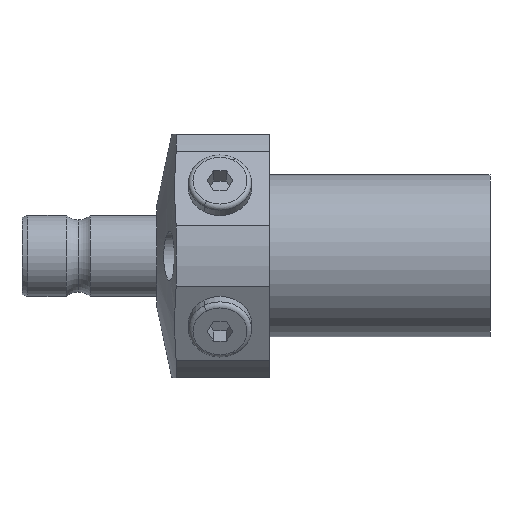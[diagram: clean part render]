
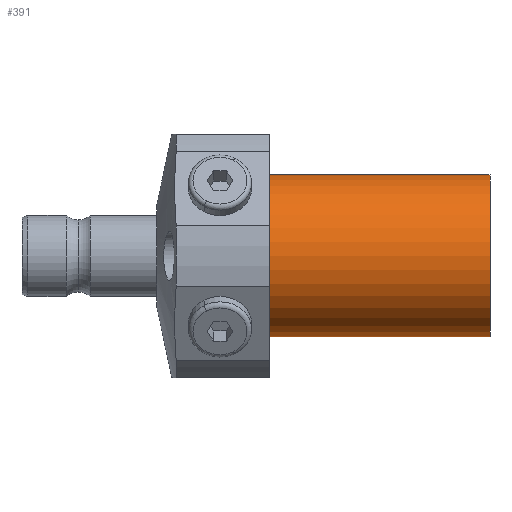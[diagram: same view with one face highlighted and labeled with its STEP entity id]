
A CAD part, left-side view. The second image highlights one B-rep face of the part: STEP entity #391.
In plain terms, the highlighted cylindrical face has radius 18 mm (diameter 36 mm), a partial arc.
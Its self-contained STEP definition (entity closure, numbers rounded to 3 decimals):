
#224 = CARTESIAN_POINT ( 'NONE',  ( 0., 0., 0. ) ) ;
#391 = ADVANCED_FACE ( 'NONE', ( #1939 ), #972, .T. ) ;
#537 = CARTESIAN_POINT ( 'NONE',  ( 0., 49., 0. ) ) ;
#620 = VECTOR ( 'NONE', #1806, 1000. ) ;
#730 = AXIS2_PLACEMENT_3D ( 'NONE', #224, #2291, #1698 ) ;
#732 = VECTOR ( 'NONE', #3588, 1000. ) ;
#840 = DIRECTION ( 'NONE',  ( 0., 0., -1. ) ) ;
#884 = EDGE_CURVE ( 'NONE', #3092, #1029, #3466, .T. ) ;
#917 = CARTESIAN_POINT ( 'NONE',  ( 0., 0., -18. ) ) ;
#923 = CARTESIAN_POINT ( 'NONE',  ( 0., 0., 18. ) ) ;
#972 = CYLINDRICAL_SURFACE ( 'NONE', #730, 18. ) ;
#1029 = VERTEX_POINT ( 'NONE', #2225 ) ;
#1133 = ORIENTED_EDGE ( 'NONE', *, *, #884, .T. ) ;
#1233 = LINE ( 'NONE', #917, #620 ) ;
#1297 = CARTESIAN_POINT ( 'NONE',  ( 0., 0., -18. ) ) ;
#1537 = ORIENTED_EDGE ( 'NONE', *, *, #1747, .F. ) ;
#1652 = CARTESIAN_POINT ( 'NONE',  ( 0., 0., 0. ) ) ;
#1698 = DIRECTION ( 'NONE',  ( 0., 0., -1. ) ) ;
#1727 = AXIS2_PLACEMENT_3D ( 'NONE', #1652, #3686, #1953 ) ;
#1747 = EDGE_CURVE ( 'NONE', #2196, #3017, #2564, .T. ) ;
#1806 = DIRECTION ( 'NONE',  ( 0., -1., 0. ) ) ;
#1939 = FACE_OUTER_BOUND ( 'NONE', #3529, .T. ) ;
#1945 = CARTESIAN_POINT ( 'NONE',  ( 0., 49., 18. ) ) ;
#1953 = DIRECTION ( 'NONE',  ( 0., 0., -1. ) ) ;
#2196 = VERTEX_POINT ( 'NONE', #923 ) ;
#2225 = CARTESIAN_POINT ( 'NONE',  ( 0., 49., -18. ) ) ;
#2291 = DIRECTION ( 'NONE',  ( 0., -1., 0. ) ) ;
#2317 = ORIENTED_EDGE ( 'NONE', *, *, #3484, .T. ) ;
#2345 = EDGE_CURVE ( 'NONE', #3092, #2196, #3768, .T. ) ;
#2439 = CARTESIAN_POINT ( 'NONE',  ( 0., 0., 18. ) ) ;
#2564 = CIRCLE ( 'NONE', #1727, 18. ) ;
#2613 = DIRECTION ( 'NONE',  ( 0., -1., 0. ) ) ;
#3017 = VERTEX_POINT ( 'NONE', #1297 ) ;
#3077 = ORIENTED_EDGE ( 'NONE', *, *, #2345, .F. ) ;
#3092 = VERTEX_POINT ( 'NONE', #1945 ) ;
#3466 = CIRCLE ( 'NONE', #3606, 18. ) ;
#3484 = EDGE_CURVE ( 'NONE', #1029, #3017, #1233, .T. ) ;
#3529 = EDGE_LOOP ( 'NONE', ( #3077, #1133, #2317, #1537 ) ) ;
#3588 = DIRECTION ( 'NONE',  ( 0., -1., 0. ) ) ;
#3606 = AXIS2_PLACEMENT_3D ( 'NONE', #537, #2613, #840 ) ;
#3686 = DIRECTION ( 'NONE',  ( 0., -1., 0. ) ) ;
#3768 = LINE ( 'NONE', #2439, #732 ) ;
